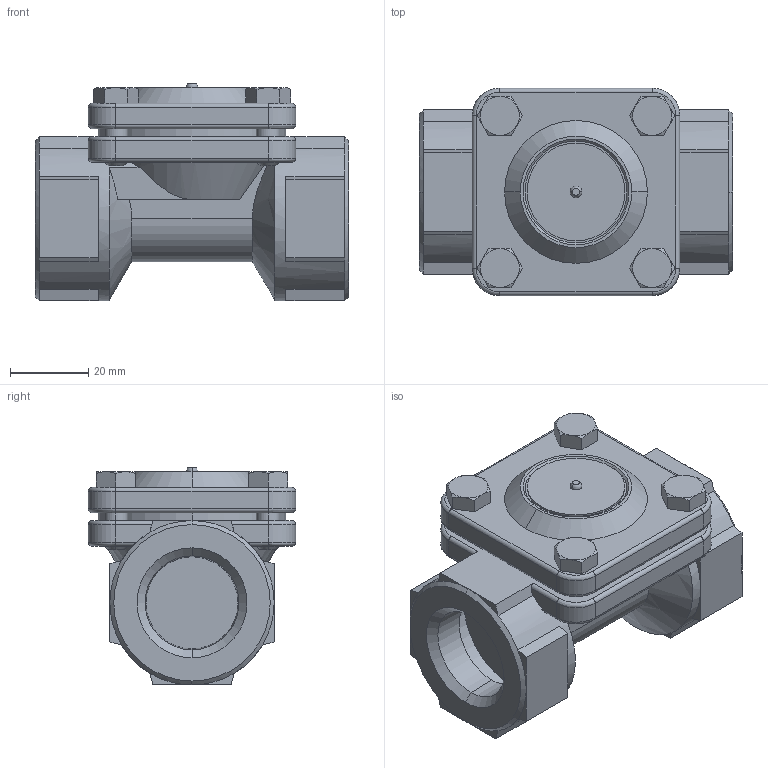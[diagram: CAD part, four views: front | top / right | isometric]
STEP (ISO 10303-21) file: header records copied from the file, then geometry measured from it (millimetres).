
FILE_DESCRIPTION( (''), '2;1');
FILE_NAME ('PC1276.4340.20A_12928.stp','2023-07-04T16:28:52',(''),(''),'spGate 19.8.4 (****-****-****-****)','','');
FILE_SCHEMA (('AUTOMOTIVE_DESIGN'));
Length unit declared in the file: millimetre
Bounding box: 80 x 53 x 55.7 mm (x, y, z)
Volume: 106415.9 mm3; surface area: 24693.5 mm2
Topology: 1 solids, 1 shells, 232 faces, 540 edges, 326 vertices
Faces by surface type: plane 111, bspline 72, cylinder 47, sphere 2
Entity records: 11883 total; most frequent: CARTESIAN_POINT 2494, ORIENTED_EDGE 1080, DIRECTION 954, COLOUR_RGB 773, PRESENTATION_STYLE_ASSIGNMENT 773, STYLED_ITEM 773, EDGE_CURVE 540, DRAUGHTING_PRE_DEFINED_CURVE_FONT 540
